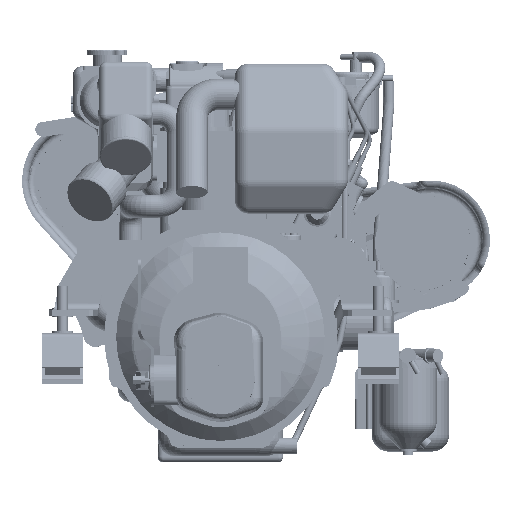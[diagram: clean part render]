
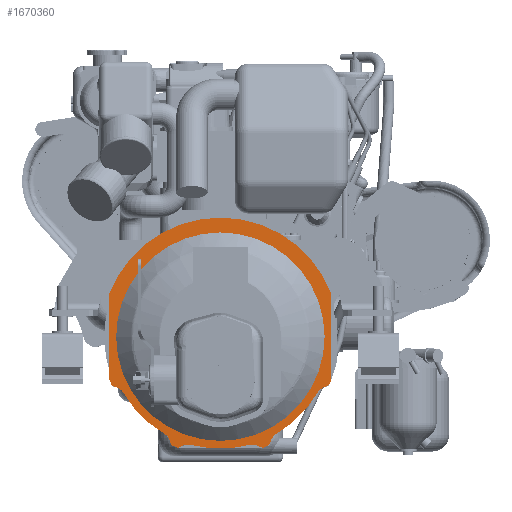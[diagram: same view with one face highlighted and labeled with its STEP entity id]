
A CAD part, top view. The second image highlights one B-rep face of the part: STEP entity #1670360.
In plain terms, the highlighted planar face has unit normal (0, 0, 1) as drawn and (0, -1, 0) by its records, which use the part's own axes.
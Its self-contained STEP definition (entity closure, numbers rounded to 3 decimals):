
#1667680=CARTESIAN_POINT('',(-155.,-453.,-42.));
#1667690=VERTEX_POINT('',#1667680);
#1667720=CARTESIAN_POINT('',(0.,-453.,-42.));
#1667730=DIRECTION('',(0.,1.,0.));
#1667740=DIRECTION('',(-1.,0.,0.));
#1667750=AXIS2_PLACEMENT_3D('',#1667720,#1667730,#1667740);
#1667760=CIRCLE('',#1667750,155.);
#1667770=CARTESIAN_POINT('',(155.,-453.,-42.));
#1667780=VERTEX_POINT('',#1667770);
#1667790=EDGE_CURVE('',#1667690,#1667780,#1667760,.T.);
#1668280=CARTESIAN_POINT('',(-165.5,-453.,135.5));
#1668290=DIRECTION('',(0.,-1.,0.));
#1668300=DIRECTION('',(1.,0.,0.));
#1668310=AXIS2_PLACEMENT_3D('',#1668280,#1668290,#1668300);
#1668320=PLANE('',#1668310);
#1668330=CARTESIAN_POINT('',(0.,-453.,
-42.));
#1668340=DIRECTION('',(0.,-1.,0.));
#1668350=DIRECTION('',(1.,0.,0.));
#1668360=AXIS2_PLACEMENT_3D('',#1668330,#1668340,#1668350);
#1668370=CIRCLE('',#1668360,177.);
#1668380=CARTESIAN_POINT('',(-165.,-453.,-106.062))
;
#1668390=VERTEX_POINT('',#1668380);
#1668400=CARTESIAN_POINT('',(-161.963,-453.,-113.394));
#1668410=VERTEX_POINT('',#1668400);
#1668420=EDGE_CURVE('',#1668390,#1668410,#1668370,.T.);
#1668430=ORIENTED_EDGE('',*,*,#1668420,.T.);
#1668440=CARTESIAN_POINT('',(-165.,-453.,-42.));
#1668450=DIRECTION('',(0.,0.,1.));
#1668460=VECTOR('',#1668450,1.);
#1668470=LINE('',#1668440,#1668460);
#1668480=CARTESIAN_POINT('',(-165.,-453.,22.062));
#1668490=VERTEX_POINT('',#1668480);
#1668500=EDGE_CURVE('',#1668390,#1668490,#1668470,.T.);
#1668510=ORIENTED_EDGE('',*,*,#1668500,.F.);
#1668520=CARTESIAN_POINT('',(0.,-453.,-42.));
#1668530=DIRECTION('',(0.,-1.,0.));
#1668540=DIRECTION('',(1.,0.,0.));
#1668550=AXIS2_PLACEMENT_3D('',#1668520,#1668530,#1668540);
#1668560=CIRCLE('',#1668550,177.);
#1668570=CARTESIAN_POINT('',(165.,-453.,22.062));
#1668580=VERTEX_POINT('',#1668570);
#1668590=EDGE_CURVE('',#1668580,#1668490,#1668560,.T.);
#1668600=ORIENTED_EDGE('',*,*,#1668590,.T.);
#1668610=CARTESIAN_POINT('',(165.,-453.,-42.));
#1668620=DIRECTION('',(0.,0.,-1.));
#1668630=VECTOR('',#1668620,1.);
#1668640=LINE('',#1668610,#1668630);
#1668650=CARTESIAN_POINT('',(165.,-453.,-106.062));
#1668660=VERTEX_POINT('',#1668650);
#1668670=EDGE_CURVE('',#1668580,#1668660,#1668640,.T.);
#1668680=ORIENTED_EDGE('',*,*,#1668670,.F.);
#1668690=CARTESIAN_POINT('',(0.,-453.,
-42.));
#1668700=DIRECTION('',(0.,-1.,0.));
#1668710=DIRECTION('',(1.,0.,0.));
#1668720=AXIS2_PLACEMENT_3D('',#1668690,#1668700,#1668710);
#1668730=CIRCLE('',#1668720,177.);
#1668740=CARTESIAN_POINT('',(161.963,-453.,-113.394));
#1668750=VERTEX_POINT('',#1668740);
#1668760=EDGE_CURVE('',#1668750,#1668660,#1668730,.T.);
#1668770=ORIENTED_EDGE('',*,*,#1668760,.T.);
#1668780=CARTESIAN_POINT('',(154.011,-453.,-105.793));
#1668790=DIRECTION('',(0.,1.,0.));
#1668800=DIRECTION('',(-1.,0.,0.));
#1668810=AXIS2_PLACEMENT_3D('',#1668780,#1668790,#1668800);
#1668820=CIRCLE('',#1668810,11.);
#1668830=CARTESIAN_POINT('',(156.62,-453.,-116.479));
#1668840=VERTEX_POINT('',#1668830);
#1668850=EDGE_CURVE('',#1668750,#1668840,#1668820,.T.);
#1668860=ORIENTED_EDGE('',*,*,#1668850,.F.);
#1668870=CARTESIAN_POINT('',(161.363,-453.,-135.909));
#1668880=DIRECTION('',(0.,-1.,0.));
#1668890=DIRECTION('',(1.,0.,0.));
#1668900=AXIS2_PLACEMENT_3D('',#1668870,#1668880,#1668890);
#1668910=CIRCLE('',#1668900,20.);
#1668920=CARTESIAN_POINT('',(144.077,-453.,-125.849));
#1668930=VERTEX_POINT('',#1668920);
#1668940=EDGE_CURVE('',#1668840,#1668930,#1668910,.T.);
#1668950=ORIENTED_EDGE('',*,*,#1668940,.F.);
#1668960=CARTESIAN_POINT('',(0.,-453.,
-42.));
#1668970=DIRECTION('',(0.,1.,0.));
#1668980=DIRECTION('',(-1.,0.,0.));
#1668990=AXIS2_PLACEMENT_3D('',#1668960,#1668970,#1668980);
#1669000=CIRCLE('',#1668990,166.7);
#1669010=CARTESIAN_POINT('',(83.849,-453.,-186.077));
#1669020=VERTEX_POINT('',#1669010);
#1669030=EDGE_CURVE('',#1668930,#1669020,#1669000,.T.);
#1669040=ORIENTED_EDGE('',*,*,#1669030,.F.);
#1669050=CARTESIAN_POINT('',(93.909,-453.,-203.363));
#1669060=DIRECTION('',(0.,-1.,0.));
#1669070=DIRECTION('',(1.,0.,0.));
#1669080=AXIS2_PLACEMENT_3D('',#1669050,#1669060,#1669070);
#1669090=CIRCLE('',#1669080,20.);
#1669100=CARTESIAN_POINT('',(74.479,-453.,-198.62));
#1669110=VERTEX_POINT('',#1669100);
#1669120=EDGE_CURVE('',#1669020,#1669110,#1669090,.T.);
#1669130=ORIENTED_EDGE('',*,*,#1669120,.F.);
#1669140=CARTESIAN_POINT('',(63.793,-453.,-196.011));
#1669150=DIRECTION('',(0.,1.,0.));
#1669160=DIRECTION('',(-1.,0.,0.));
#1669170=AXIS2_PLACEMENT_3D('',#1669140,#1669150,#1669160);
#1669180=CIRCLE('',#1669170,11.);
#1669190=CARTESIAN_POINT('',(71.394,-453.,-203.963));
#1669200=VERTEX_POINT('',#1669190);
#1669210=EDGE_CURVE('',#1669110,#1669200,#1669180,.T.);
#1669220=ORIENTED_EDGE('',*,*,#1669210,.F.);
#1669230=CARTESIAN_POINT('',(0.,-453.,
-42.));
#1669240=DIRECTION('',(0.,-1.,0.));
#1669250=DIRECTION('',(1.,0.,0.));
#1669260=AXIS2_PLACEMENT_3D('',#1669230,#1669240,#1669250);
#1669270=CIRCLE('',#1669260,177.);
#1669280=CARTESIAN_POINT('',(64.042,-453.,-207.008));
#1669290=VERTEX_POINT('',#1669280);
#1669300=EDGE_CURVE('',#1669290,#1669200,#1669270,.T.);
#1669310=ORIENTED_EDGE('',*,*,#1669300,.T.);
#1669320=CARTESIAN_POINT('',(63.793,-453.,-196.011));
#1669330=DIRECTION('',(0.,1.,0.));
#1669340=DIRECTION('',(-1.,0.,0.));
#1669350=AXIS2_PLACEMENT_3D('',#1669320,#1669330,#1669340);
#1669360=CIRCLE('',#1669350,11.);
#1669370=CARTESIAN_POINT('',(58.082,-453.,-205.412));
#1669380=VERTEX_POINT('',#1669370);
#1669390=EDGE_CURVE('',#1669290,#1669380,#1669360,.T.);
#1669400=ORIENTED_EDGE('',*,*,#1669390,.F.);
#1669410=CARTESIAN_POINT('',(47.697,-453.,-222.504));
#1669420=DIRECTION('',(0.,-1.,0.));
#1669430=DIRECTION('',(1.,0.,0.));
#1669440=AXIS2_PLACEMENT_3D('',#1669410,#1669420,#1669430);
#1669450=CIRCLE('',#1669440,20.);
#1669460=CARTESIAN_POINT('',(42.588,-453.,-203.168));
#1669470=VERTEX_POINT('',#1669460);
#1669480=EDGE_CURVE('',#1669380,#1669470,#1669450,.T.);
#1669490=ORIENTED_EDGE('',*,*,#1669480,.F.);
#1669500=CARTESIAN_POINT('',(0.,-453.,-42.));
#1669510=DIRECTION('',(0.,1.,0.));
#1669520=DIRECTION('',(-1.,0.,0.));
#1669530=AXIS2_PLACEMENT_3D('',#1669500,#1669510,#1669520);
#1669540=CIRCLE('',#1669530,166.7);
#1669550=CARTESIAN_POINT('',(-42.588,-453.,-203.168))
;
#1669560=VERTEX_POINT('',#1669550);
#1669570=EDGE_CURVE('',#1669470,#1669560,#1669540,.T.);
#1669580=ORIENTED_EDGE('',*,*,#1669570,.F.);
#1669590=CARTESIAN_POINT('',(-47.697,-453.,-222.504));
#1669600=DIRECTION('',(0.,-1.,0.));
#1669610=DIRECTION('',(1.,0.,0.));
#1669620=AXIS2_PLACEMENT_3D('',#1669590,#1669600,#1669610);
#1669630=CIRCLE('',#1669620,20.);
#1669640=CARTESIAN_POINT('',(-58.082,-453.,-205.412))
;
#1669650=VERTEX_POINT('',#1669640);
#1669660=EDGE_CURVE('',#1669560,#1669650,#1669630,.T.);
#1669670=ORIENTED_EDGE('',*,*,#1669660,.F.);
#1669680=CARTESIAN_POINT('',(-63.793,-453.,-196.011))
;
#1669690=DIRECTION('',(0.,1.,0.));
#1669700=DIRECTION('',(-1.,0.,0.));
#1669710=AXIS2_PLACEMENT_3D('',#1669680,#1669690,#1669700);
#1669720=CIRCLE('',#1669710,11.);
#1669730=CARTESIAN_POINT('',(-64.042,-453.,-207.008))
;
#1669740=VERTEX_POINT('',#1669730);
#1669750=EDGE_CURVE('',#1669650,#1669740,#1669720,.T.);
#1669760=ORIENTED_EDGE('',*,*,#1669750,.F.);
#1669770=CARTESIAN_POINT('',(0.,-453.,
-42.));
#1669780=DIRECTION('',(0.,-1.,0.));
#1669790=DIRECTION('',(1.,0.,0.));
#1669800=AXIS2_PLACEMENT_3D('',#1669770,#1669780,#1669790);
#1669810=CIRCLE('',#1669800,177.);
#1669820=CARTESIAN_POINT('',(-71.394,-453.,-203.963))
;
#1669830=VERTEX_POINT('',#1669820);
#1669840=EDGE_CURVE('',#1669830,#1669740,#1669810,.T.);
#1669850=ORIENTED_EDGE('',*,*,#1669840,.T.);
#1669860=CARTESIAN_POINT('',(-63.793,-453.,-196.011));
#1669870=DIRECTION('',(0.,1.,0.));
#1669880=DIRECTION('',(-1.,0.,0.));
#1669890=AXIS2_PLACEMENT_3D('',#1669860,#1669870,#1669880);
#1669900=CIRCLE('',#1669890,11.);
#1669910=CARTESIAN_POINT('',(-74.479,-453.,-198.62))
;
#1669920=VERTEX_POINT('',#1669910);
#1669930=EDGE_CURVE('',#1669830,#1669920,#1669900,.T.);
#1669940=ORIENTED_EDGE('',*,*,#1669930,.F.);
#1669950=CARTESIAN_POINT('',(-93.909,-453.,-203.363));
#1669960=DIRECTION('',(0.,-1.,0.));
#1669970=DIRECTION('',(1.,0.,0.));
#1669980=AXIS2_PLACEMENT_3D('',#1669950,#1669960,#1669970);
#1669990=CIRCLE('',#1669980,20.);
#1670000=CARTESIAN_POINT('',(-83.849,-453.,-186.077))
;
#1670010=VERTEX_POINT('',#1670000);
#1670020=EDGE_CURVE('',#1669920,#1670010,#1669990,.T.);
#1670030=ORIENTED_EDGE('',*,*,#1670020,.F.);
#1670040=CARTESIAN_POINT('',(0.,-453.,
-42.));
#1670050=DIRECTION('',(0.,1.,0.));
#1670060=DIRECTION('',(-1.,0.,0.));
#1670070=AXIS2_PLACEMENT_3D('',#1670040,#1670050,#1670060);
#1670080=CIRCLE('',#1670070,166.7);
#1670090=CARTESIAN_POINT('',(-144.077,-453.,-125.849));
#1670100=VERTEX_POINT('',#1670090);
#1670110=EDGE_CURVE('',#1670010,#1670100,#1670080,.T.);
#1670120=ORIENTED_EDGE('',*,*,#1670110,.F.);
#1670130=CARTESIAN_POINT('',(-161.363,-453.,-135.909));
#1670140=DIRECTION('',(0.,-1.,0.));
#1670150=DIRECTION('',(1.,0.,0.));
#1670160=AXIS2_PLACEMENT_3D('',#1670130,#1670140,#1670150);
#1670170=CIRCLE('',#1670160,20.);
#1670180=CARTESIAN_POINT('',(-156.62,-453.,-116.479))
;
#1670190=VERTEX_POINT('',#1670180);
#1670200=EDGE_CURVE('',#1670100,#1670190,#1670170,.T.);
#1670210=ORIENTED_EDGE('',*,*,#1670200,.F.);
#1670220=CARTESIAN_POINT('',(-154.011,-453.,-105.793));
#1670230=DIRECTION('',(0.,1.,0.));
#1670240=DIRECTION('',(-1.,0.,0.));
#1670250=AXIS2_PLACEMENT_3D('',#1670220,#1670230,#1670240);
#1670260=CIRCLE('',#1670250,11.);
#1670270=EDGE_CURVE('',#1670190,#1668410,#1670260,.T.);
#1670280=ORIENTED_EDGE('',*,*,#1670270,.F.);
#1670290=EDGE_LOOP('',(#1670280,#1670210,#1670120,#1670030,#1669940,
#1669850,#1669760,#1669670,#1669580,#1669490,#1669400,#1669310,#1669220,
#1669130,#1669040,#1668950,#1668860,#1668770,#1668680,#1668600,#1668510,
#1668430));
#1670300=FACE_OUTER_BOUND('',#1670290,.T.);
#1670310=ORIENTED_EDGE('',*,*,#1667790,.T.);
#1670320=EDGE_CURVE('',#1667780,#1667690,#1667760,.T.);
#1670330=ORIENTED_EDGE('',*,*,#1670320,.T.);
#1670340=EDGE_LOOP('',(#1670330,#1670310));
#1670350=FACE_BOUND('',#1670340,.T.);
#1670360=ADVANCED_FACE('',(#1670300,#1670350),#1668320,.T.);
